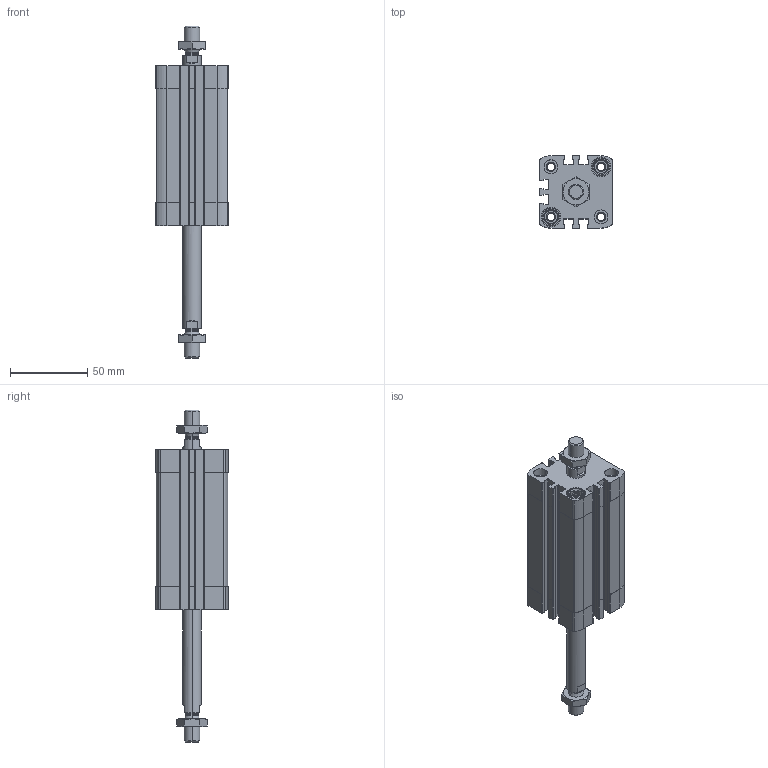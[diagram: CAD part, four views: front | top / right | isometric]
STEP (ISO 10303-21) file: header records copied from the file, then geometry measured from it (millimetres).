
FILE_DESCRIPTION (( 'STEP AP203' ), '1' );
FILE_NAME ('CCN32-60-P.STEP', '2020-06-22T18:48:08', ( '' ), ( '' ), 'SwSTEP 2.0', 'SolidWorks 2019', '' );
FILE_SCHEMA (( 'CONFIG_CONTROL_DESIGN' ));
Length unit declared in the file: millimetre
Products named in the file (1): CCN32-60-P
Bounding box: 47 x 47 x 215.5 mm (x, y, z)
Volume: 159485 mm3; surface area: 62183.4 mm2
Topology: 4 solids, 4 shells, 536 faces, 1416 edges, 920 vertices
Faces by surface type: plane 288, cylinder 180, cone 60, torus 8
Entity records: 17371 total; most frequent: CARTESIAN_POINT 3741, DIRECTION 2898, ORIENTED_EDGE 2832, EDGE_CURVE 1416, AXIS2_PLACEMENT_3D 1069, VERTEX_POINT 920, LINE 760, VECTOR 760
